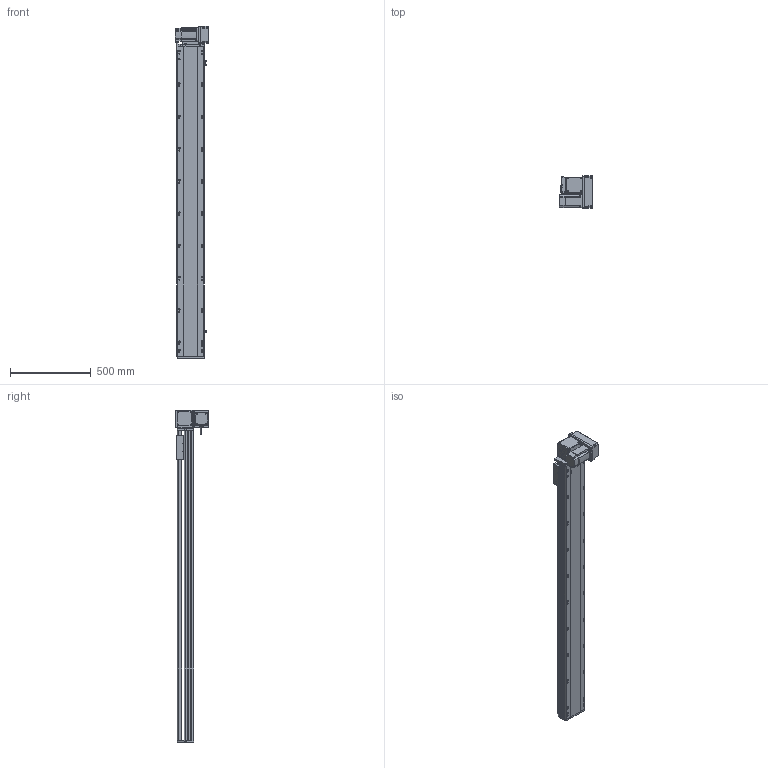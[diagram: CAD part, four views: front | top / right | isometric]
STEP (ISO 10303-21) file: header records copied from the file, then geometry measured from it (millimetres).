
FILE_DESCRIPTION (( 'STEP AP214' ), '1' );
FILE_NAME ('RTB17S-XX-1650-RM-M75-C4.STEP', '2025-12-12T02:10:08', ( '' ), ( '' ), 'SwSTEP 2.0', 'SolidWorks 2018', '' );
FILE_SCHEMA (( 'AUTOMOTIVE_DESIGN' ));
Length unit declared in the file: millimetre
Products named in the file (15): RTH13-BL-012覜茼え俋离^RTB17S-賑釱_RTB17S-XX-XX-RM-M75-C4; RTB22S-GY-008-M75--萇儂啣^RTB17S-RM-々湍釱蚾饜-750W_RTB17S-XX-XX-RM-M75-C4; RTB17S-RM-々湍釱蚾饜-750W^RTB17S-XX-XX-RM-M75-C4; RTB17S-L-001-耜醱啣^RTB17S-XX-XX-RM-M75-C4; RTB17S-XX-1650-RM-M75-C4; EE672^RTB17S-XX-XX-RM-M75-C4; 750W萇儂^RTB17S-XX-XX-RM-M75-C4; RTB17S-L-014-T20-P75--々湍釱^RTB17S-RM-々湍釱蚾饜-750W_RTB17S-XX-XX-RM-M75-C4; RTB17S-L-007奻裔^RTB17S-XX-XX-RM-M75-C4; RTB17-R-011菁釱^RTB17S-XX-XX-RM-M75-C4; RTB22S-GY-017P^RTB17S-RM-々湍釱蚾饜-750W_RTB17S-XX-XX-RM-M75-C4; RTB22S-GY-005P^RTB17S-RM-々湍釱蚾饜-750W_RTB17S-XX-XX-RM-M75-C4; RTB17S-賑釱^RTB17S-XX-XX-RM-M75-C4; RTB22S-GY-018P^RTB17S-RM-々湍釱蚾饜-750W_RTB17S-XX-XX-RM-M75-C4; RTB17S-L-004-賑釱^RTB17S-賑釱_RTB17S-XX-XX-RM-M75-C4
Assembly tree (17 placements, depth 3):
  RTB17S-XX-1650-RM-M75-C4
    RTB17-R-011菁釱^RTB17S-XX-XX-RM-M75-C4
    EE672^RTB17S-XX-XX-RM-M75-C4  x3
    RTB17S-L-001-耜醱啣^RTB17S-XX-XX-RM-M75-C4
    RTB17S-賑釱^RTB17S-XX-XX-RM-M75-C4
      RTB17S-L-004-賑釱^RTB17S-賑釱_RTB17S-XX-XX-RM-M75-C4
      RTH13-BL-012覜茼え俋离^RTB17S-賑釱_RTB17S-XX-XX-RM-M75-C4
    RTB17S-L-007奻裔^RTB17S-XX-XX-RM-M75-C4
    750W萇儂^RTB17S-XX-XX-RM-M75-C4
    RTB17S-RM-々湍釱蚾饜-750W^RTB17S-XX-XX-RM-M75-C4
      RTB17S-L-014-T20-P75--々湍釱^RTB17S-RM-々湍釱蚾饜-750W_RTB17S-XX-XX-RM-M75-C4
      RTB22S-GY-005P^RTB17S-RM-々湍釱蚾饜-750W_RTB17S-XX-XX-RM-M75-C4
      RTB22S-GY-017P^RTB17S-RM-々湍釱蚾饜-750W_RTB17S-XX-XX-RM-M75-C4  x2
      RTB22S-GY-008-M75--萇儂啣^RTB17S-RM-々湍釱蚾饜-750W_RTB17S-XX-XX-RM-M75-C4
      RTB22S-GY-018P^RTB17S-RM-々湍釱蚾饜-750W_RTB17S-XX-XX-RM-M75-C4
Bounding box: 207.4 x 200 x 2057.5 mm (x, y, z)
Volume: 16259150.1 mm3; surface area: 2871131.7 mm2
Topology: 17 solids, 17 shells, 2153 faces, 5998 edges, 3878 vertices
Faces by surface type: plane 978, cylinder 759, bspline 294, cone 110, sphere 8, torus 4
Entity records: 61174 total; most frequent: CARTESIAN_POINT 18062, ORIENTED_EDGE 8840, DIRECTION 8222, EDGE_CURVE 4420, AXIS2_PLACEMENT_3D 2898, VERTEX_POINT 2882, LINE 2426, VECTOR 2426
